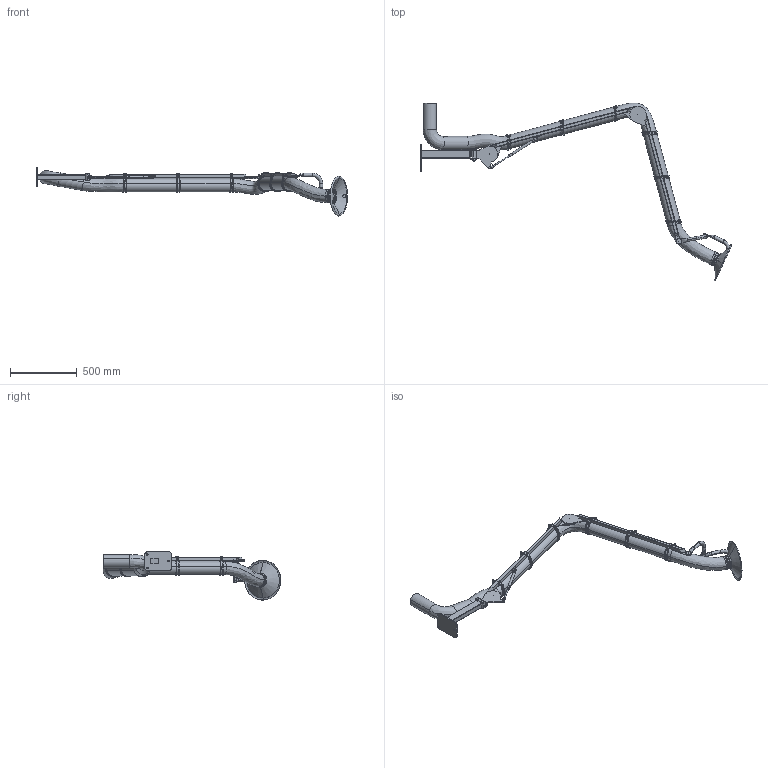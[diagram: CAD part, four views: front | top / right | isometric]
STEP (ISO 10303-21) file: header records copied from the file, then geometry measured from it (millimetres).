
FILE_DESCRIPTION((''),'2;1');
FILE_NAME('PSR_3000-100_EXD','2022-10-04T11:36:06',('Tomas Bellgran'),(''),'CREO PARAMETRIC BY PTC INC, 2018260','CREO PARAMETRIC BY PTC INC, 2018260','');
FILE_SCHEMA(('AUTOMOTIVE_DESIGN { 1 0 10303 214 1 1 1 1 }'));
Length unit declared in the file: millimetre
Products named in the file (34): 141558; 141580; 141581; 122701; 141514; 141560; 141582; 141587; 141524; 121391; 131150; 139380; 131151; 131170; 144356; 141589; 134343_AF0; G_P136_WELD-REF; 141590; 122717_LIGHT; 120127_COMPL_LIGHT; 130317; ROD_STAB_8-160-REF; 131095; 130322_AF10; 131145; 139635; 139656; 139614; 139630; 141642; 124460; 107521-11; PSR_3000-100_EXD
Assembly tree (51 placements, depth 3):
  PSR_3000-100_EXD
    141514
      141558
      141580
      141581
      122701
    141524
      141560
      141582
      141587
    121391  x4
    131150
    131170
      139380
      131151
    144356  x2
    141590
      141589
      134343_AF0
      G_P136_WELD-REF
    122717_LIGHT
    120127_COMPL_LIGHT
    130322_AF10
      130317
      ROD_STAB_8-160-REF
      131095  x2
    131145  x2
    139630
      139635  x3
      139656
      139614
    141642
    124460  x6
    107521-11  x6
Bounding box: 2333.14 x 1333.36 x 362.95 mm (x, y, z)
Volume: 28603568.8 mm3; surface area: 1943408.2 mm2
Topology: 45 solids, 45 shells, 1101 faces, 2631 edges, 1620 vertices
Faces by surface type: plane 403, cylinder 341, bspline 230, torus 66, cone 42, extrusion 17, sphere 2
Entity records: 34887 total; most frequent: CARTESIAN_POINT 12096, DIRECTION 2930, ORIENTED_EDGE 2664, PRESENTATION_STYLE_ASSIGNMENT 1850, STYLED_ITEM 1823, CURVE_STYLE 1339, EDGE_CURVE 1332, AXIS2_PLACEMENT_3D 1160
